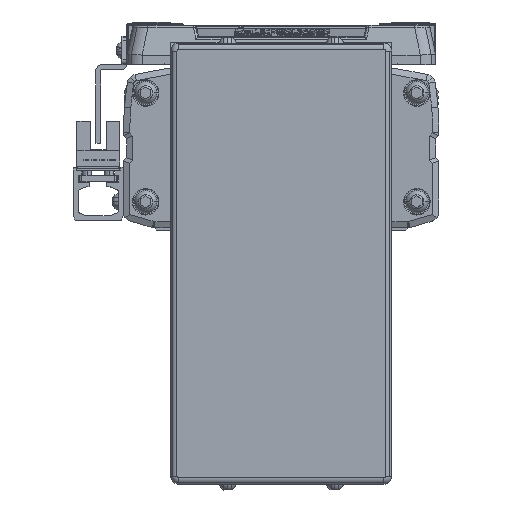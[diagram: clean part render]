
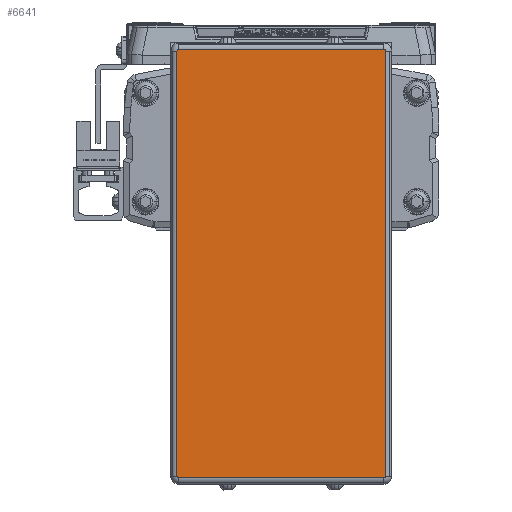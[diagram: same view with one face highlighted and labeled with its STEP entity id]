
A CAD part, left-side view. The second image highlights one B-rep face of the part: STEP entity #6641.
In plain terms, the highlighted planar face has unit normal (-1, 0, 0).
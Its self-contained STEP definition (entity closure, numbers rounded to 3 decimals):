
#6641=ADVANCED_FACE('',(#13873),#13874,.F.);
#13873=FACE_OUTER_BOUND('',#22391,.T.);
#13874=PLANE('',#22392);
#22391=EDGE_LOOP('',(#40962,#40963,#40964,#40965,#40966,#40967,#40968,#40969));
#22392=AXIS2_PLACEMENT_3D('',#40970,#40971,#40972);
#40962=ORIENTED_EDGE('',*,*,#52211,.T.);
#40963=ORIENTED_EDGE('',*,*,#54965,.T.);
#40964=ORIENTED_EDGE('',*,*,#51001,.T.);
#40965=ORIENTED_EDGE('',*,*,#53611,.T.);
#40966=ORIENTED_EDGE('',*,*,#54414,.T.);
#40967=ORIENTED_EDGE('',*,*,#51830,.T.);
#40968=ORIENTED_EDGE('',*,*,#54966,.T.);
#40969=ORIENTED_EDGE('',*,*,#54967,.T.);
#40970=CARTESIAN_POINT('',(-616.0,0.,-41.6));
#40971=DIRECTION('',(1.0,0.,0.));
#40972=DIRECTION('',(0.,0.,1.0));
#51001=EDGE_CURVE('',#62525,#62523,#62526,.T.);
#51830=EDGE_CURVE('',#63795,#63793,#63796,.T.);
#52211=EDGE_CURVE('',#64339,#64337,#64340,.T.);
#53611=EDGE_CURVE('',#62523,#66242,#66244,.T.);
#54414=EDGE_CURVE('',#66242,#63795,#67271,.T.);
#54965=EDGE_CURVE('',#64337,#62525,#67928,.T.);
#54966=EDGE_CURVE('',#63793,#67929,#67930,.T.);
#54967=EDGE_CURVE('',#67929,#64339,#67931,.T.);
#62523=VERTEX_POINT('',#77912);
#62525=VERTEX_POINT('',#77914);
#62526=LINE('',#77915,#77916);
#63793=VERTEX_POINT('',#79613);
#63795=VERTEX_POINT('',#79615);
#63796=CIRCLE('',#79616,0.5);
#64337=VERTEX_POINT('',#80351);
#64339=VERTEX_POINT('',#80353);
#64340=LINE('',#80354,#80355);
#66242=VERTEX_POINT('',#83039);
#66244=CIRCLE('',#83041,0.5);
#67271=LINE('',#84487,#84488);
#67928=CIRCLE('',#85424,0.5);
#67929=VERTEX_POINT('',#85425);
#67930=LINE('',#85426,#85427);
#67931=CIRCLE('',#85428,0.5);
#77912=CARTESIAN_POINT('',(-616.,32.55,26.3));
#77914=CARTESIAN_POINT('',(-616.,-32.55,26.3));
#77915=CARTESIAN_POINT('',(-616.,0.,26.3));
#77916=VECTOR('',#92206,10.0);
#79613=CARTESIAN_POINT('',(-616.0,32.55,-109.5));
#79615=CARTESIAN_POINT('',(-616.0,33.05,-109.));
#79616=AXIS2_PLACEMENT_3D('',#93388,#93389,#93390);
#80351=CARTESIAN_POINT('',(-616.,-33.05,25.8));
#80353=CARTESIAN_POINT('',(-616.0,-33.05,-109.));
#80354=CARTESIAN_POINT('',(-616.,-33.05,-41.6));
#80355=VECTOR('',#93864,10.0);
#83039=CARTESIAN_POINT('',(-616.,33.05,25.8));
#83041=AXIS2_PLACEMENT_3D('',#95567,#95568,#95569);
#84487=CARTESIAN_POINT('',(-616.0,33.05,-41.6));
#84488=VECTOR('',#96537,10.0);
#85424=AXIS2_PLACEMENT_3D('',#97096,#97097,#97098);
#85425=CARTESIAN_POINT('',(-616.0,-32.55,-109.5));
#85426=CARTESIAN_POINT('',(-616.0,0.,-109.5));
#85427=VECTOR('',#97099,10.0);
#85428=AXIS2_PLACEMENT_3D('',#97100,#97101,#97102);
#92206=DIRECTION('',(0.,1.0,0.));
#93388=CARTESIAN_POINT('',(-616.0,32.55,-109.));
#93389=DIRECTION('',(-1.0,0.,0.));
#93390=DIRECTION('',(0.,0.707,-0.707));
#93864=DIRECTION('',(0.,0.,1.0));
#95567=CARTESIAN_POINT('',(-616.,32.55,25.8));
#95568=DIRECTION('',(-1.0,0.,0.));
#95569=DIRECTION('',(0.,0.707,0.707));
#96537=DIRECTION('',(0.,0.,-1.0));
#97096=CARTESIAN_POINT('',(-616.,-32.55,25.8));
#97097=DIRECTION('',(-1.0,0.,0.));
#97098=DIRECTION('',(0.,-0.707,0.707));
#97099=DIRECTION('',(0.,-1.0,0.));
#97100=CARTESIAN_POINT('',(-616.0,-32.55,-109.));
#97101=DIRECTION('',(-1.0,0.,0.));
#97102=DIRECTION('',(0.,-0.707,-0.707));
